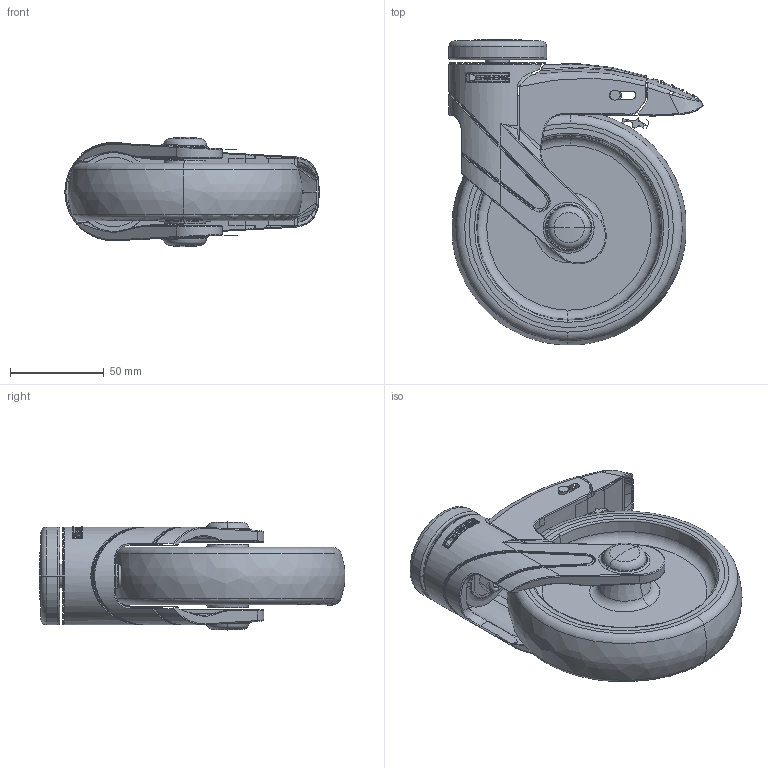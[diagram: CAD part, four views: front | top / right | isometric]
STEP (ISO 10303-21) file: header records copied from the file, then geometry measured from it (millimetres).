
FILE_DESCRIPTION((''),'2;1');
FILE_NAME('PRT0003','2025-08-04T09:24:40',('Administrator'),(''),'CREO PARAMETRIC BY PTC INC, 2022124','CREO PARAMETRIC BY PTC INC, 2022124','');
FILE_SCHEMA(('AUTOMOTIVE_DESIGN { 1 0 10303 214 1 1 1 1 }'));
Length unit declared in the file: millimetre
Products named in the file (1): PRT0003
Bounding box: 135.39 x 162.91 x 58.19 mm (x, y, z)
Surface area: 77760.5 mm2 (no closed solid volume)
Topology: 0 solids, 51 shells, 306 faces, 1718 edges, 1416 vertices
Faces by surface type: bspline 104, plane 75, cylinder 60, torus 50, cone 11, sphere 4, extrusion 2
Entity records: 30581 total; most frequent: CARTESIAN_POINT 17042, ORIENTED_EDGE 2155, DIRECTION 1858, EDGE_CURVE 1714, VERTEX_POINT 1416, B_SPLINE_CURVE_WITH_KNOTS 794, AXIS2_PLACEMENT_3D 721, CIRCLE 511
